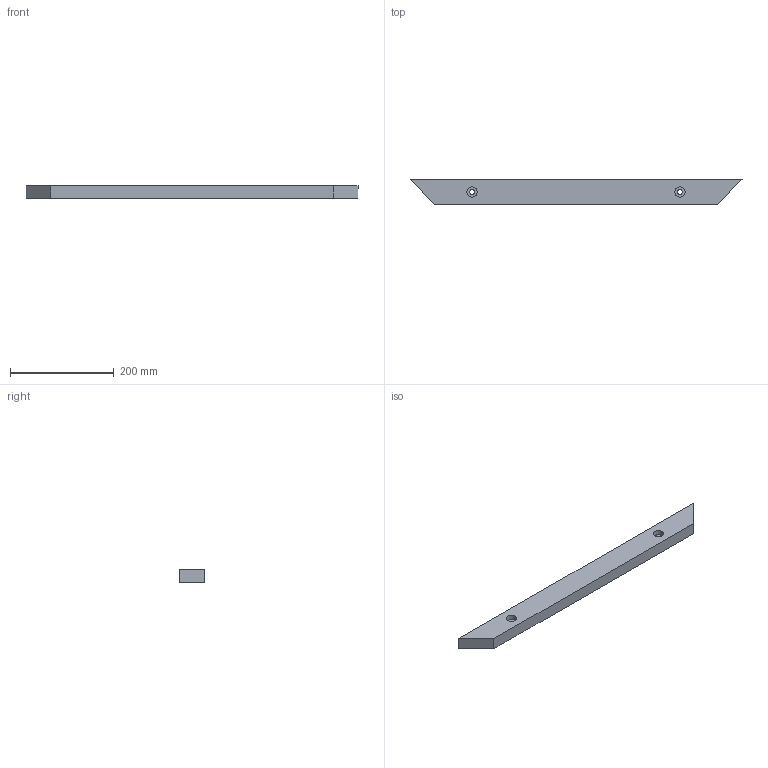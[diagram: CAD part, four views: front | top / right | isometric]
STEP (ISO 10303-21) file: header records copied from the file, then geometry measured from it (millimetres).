
FILE_DESCRIPTION (( 'STEP AP203' ), '1' );
FILE_NAME ('Tasseau_Parois_Biais.STEP', '2026-06-24T07:29:47', ( '' ), ( '' ), 'SwSTEP 2.0', 'SolidWorks 2024', '' );
FILE_SCHEMA (( 'CONFIG_CONTROL_DESIGN' ));
Length unit declared in the file: millimetre
Products named in the file (1): Tasseau_Parois_Biais_Percé_Interne
Bounding box: 639 x 48 x 24 mm (x, y, z)
Volume: 672767.5 mm3; surface area: 90156.2 mm2
Topology: 1 solids, 1 shells, 12 faces, 24 edges, 16 vertices
Faces by surface type: plane 8, cylinder 4
Full cylindrical faces by diameter (mm): 9 x2, 20 x2
Entity records: 379 total; most frequent: DIRECTION 54, CARTESIAN_POINT 49, ORIENTED_EDGE 40, EDGE_LOOP 22, AXIS2_PLACEMENT_3D 21, EDGE_CURVE 20, VERTEX_POINT 16, FACE_OUTER_BOUND 16
